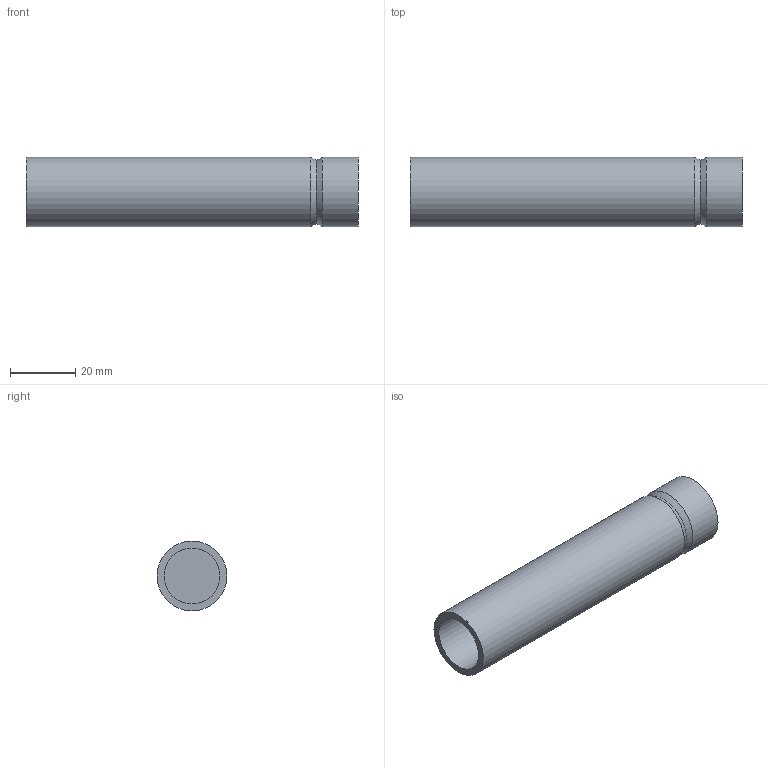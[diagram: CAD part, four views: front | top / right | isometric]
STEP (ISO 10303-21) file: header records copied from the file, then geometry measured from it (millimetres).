
FILE_DESCRIPTION(/* description */ ('VIC END CAP STYLE P540','CAx-IF Rec.Pracs.---Representation and Presentation of Product Manufacturing Information (PMI)---4.0---2014-10-13'),/* implementation_level */ '2;1');
FILE_NAME(/* name */ 'C:\Users\Vjadhav\AppData\Roaming\Autodesk\ApplicationPlugins\Back Up\Victaulic_SS-Vic-Press-TP 304_Cap_Style P540 (VP)\Victaulic_SS-Vic-Press-TP 304_Cap_Style P540 (VP)_0.5 (15).stp',/* time_stamp */ '2020-08-12T15:35:24+05:00',/* author */ ('cgray'),/* organization */ ('Victaulic'),/* preprocessor_version */ 'ST-DEVELOPER v17.2',/* originating_system */ 'Autodesk Inventor 2019',/* authorisation */ '');
FILE_SCHEMA (('AP242_MANAGED_MODEL_BASED_3D_ENGINEERING_MIM_LF { 1 0 10303 442 1 1 4 }'));
Length unit declared in the file: inch
Products named in the file (1): P540-0.5
Bounding box: 101.6 x 21.34 x 21.34 mm (x, y, z)
Volume: 13299.1 mm3; surface area: 12900.1 mm2
Topology: 1 solids, 1 shells, 8 faces, 19 edges, 14 vertices
Faces by surface type: plane 3, cylinder 3, cone 2
Full cylindrical faces by diameter (mm): 17.12 x1, 21.336 x2
Entity records: 389 total; most frequent: DIRECTION 77, CARTESIAN_POINT 59, ORIENTED_EDGE 38, AXIS2_PLACEMENT_3D 36, EDGE_CURVE 19, CIRCLE 14, VERTEX_POINT 14, STYLED_ITEM 10
